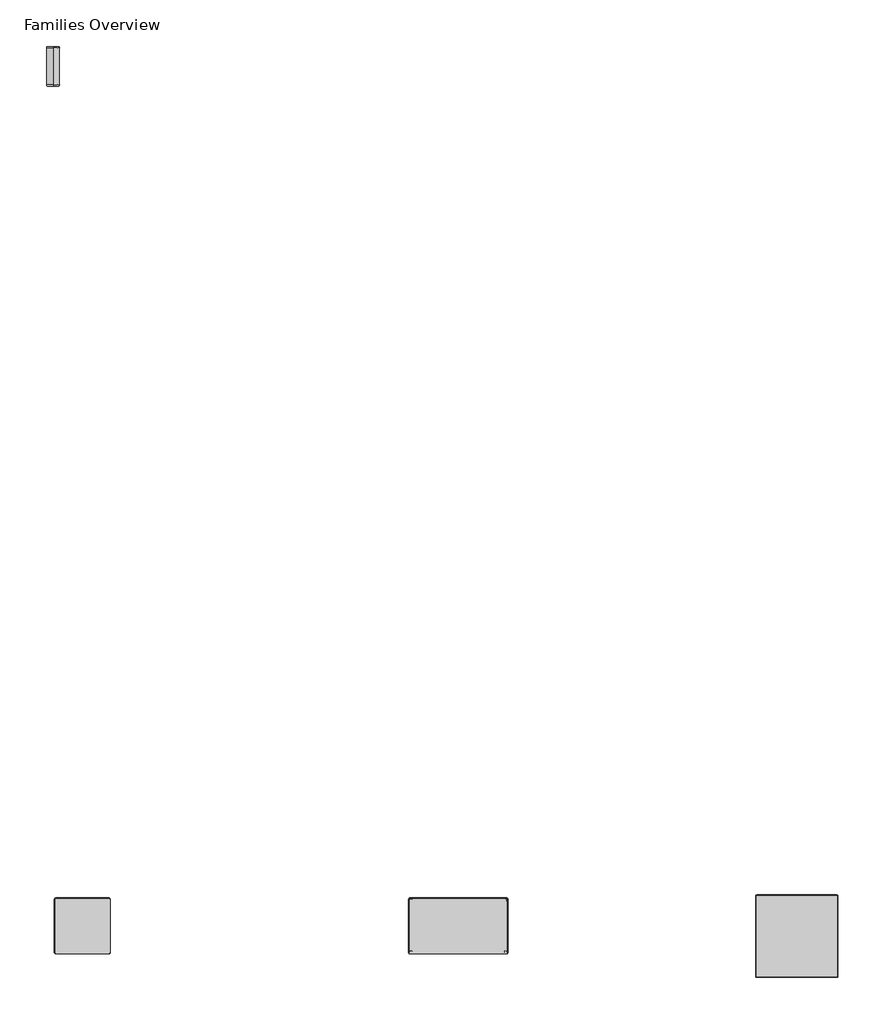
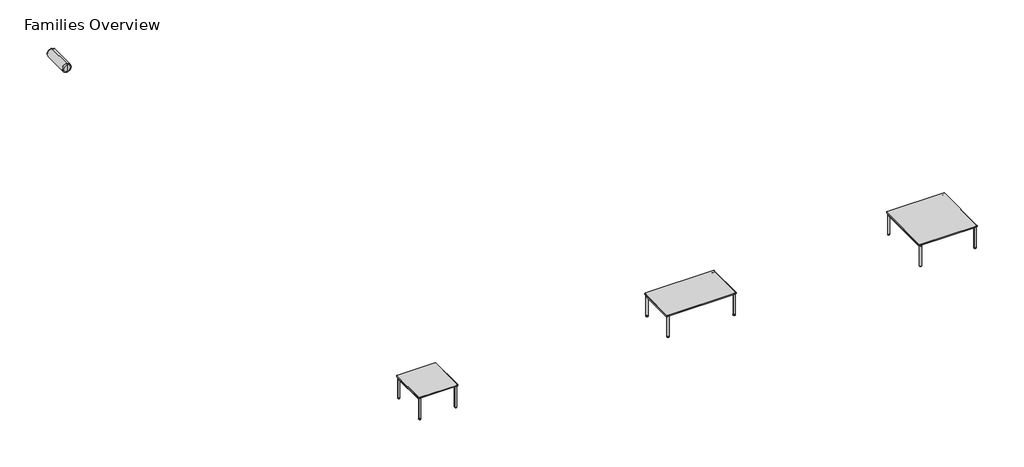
# One storey, incomplete: 4 furniture elements.
"""IFC4 building model written with IfcOpenShell, lengths in millimetres."""

from ifc_helpers import new_model, si_unit, origin, place, context, project, spatial, transform, mapped, element, save
from components import furniture_fab9fd42, steelcase_coalesse_switch_table_367d858f, steelcase_coalesse_switch_table_b2876d4c, steelcase_coalesse_switch_table_0ef8ef29

model = new_model("IFC4")

# Units and contexts
model_context = context("Model", 3, world=origin())
ifc_project = project(units=[si_unit("LENGTHUNIT", "METRE", prefix="MILLI")], contexts=[model_context])

# Site, building, storey
site = spatial("IfcSite", under=ifc_project)
building = spatial("IfcBuilding", under=site)
storey = spatial("IfcBuildingStorey", under=building, Name="Families Overview", Elevation=0.0)

# Furniture
placement = place(None, origin())
furniture_shape = furniture_fab9fd42(model_context)
element("IfcFurniture", 1, ObjectType="Steelcase Coalesse - Switch - Seating - Arm Bolster : Arm Bolster", at=placement, inside=storey, context=model_context, shape_type="MappedRepresentation", body=[
    mapped(furniture_shape, transform((-14111.2673108, -7984.3150315, 0.0), x_axis=(1.0, 0.0, 0.0), y_axis=(0.0, 1.0, 0.0), z_axis=(0.0, 0.0, 1.0))),
])
steelcase_coalesse_switch_table_shape = steelcase_coalesse_switch_table_367d858f(model_context)
element("IfcFurniture", 2, ObjectType="Steelcase Coalesse - Switch - Table : 36D x 36W", at=placement, inside=storey, context=model_context, shape_type="MappedRepresentation", body=[
    mapped(steelcase_coalesse_switch_table_shape, transform((-6248.5753577, -17390.3250544, 0.0), x_axis=(1.0, 0.0, 0.0), y_axis=(0.0, 1.0, 0.0), z_axis=(0.0, 0.0, 1.0))),
])
steelcase_coalesse_switch_table_2_shape = steelcase_coalesse_switch_table_b2876d4c(model_context)
element("IfcFurniture", 3, ObjectType="Steelcase Coalesse - Switch - Table : 24 3⁄8D x 24 3⁄8W", at=placement, inside=storey, context=model_context, shape_type="MappedRepresentation", body=[
    mapped(steelcase_coalesse_switch_table_2_shape, transform((-14025.8013577, -17423.4982475, 0.0), x_axis=(1.0, 0.0, 0.0), y_axis=(0.0, 1.0, 0.0), z_axis=(0.0, 0.0, 1.0))),
])
steelcase_coalesse_switch_table_3_shape = steelcase_coalesse_switch_table_0ef8ef29(model_context)
element("IfcFurniture", 4, ObjectType="Steelcase Coalesse - Switch - Table : 24 3⁄8D x 43 1⁄4W", at=placement, inside=storey, context=model_context, shape_type="MappedRepresentation", body=[
    mapped(steelcase_coalesse_switch_table_3_shape, transform((-10095.7018126, -17423.4982475, 0.0), x_axis=(1.0, 0.0, 0.0), y_axis=(0.0, 1.0, 0.0), z_axis=(0.0, 0.0, 1.0))),
])

save(model, "model.ifc")
